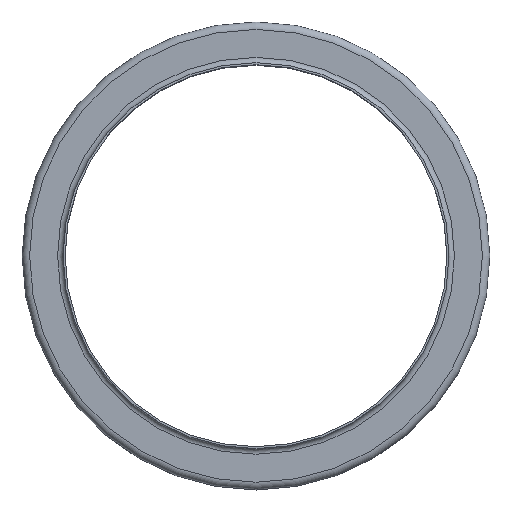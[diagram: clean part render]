
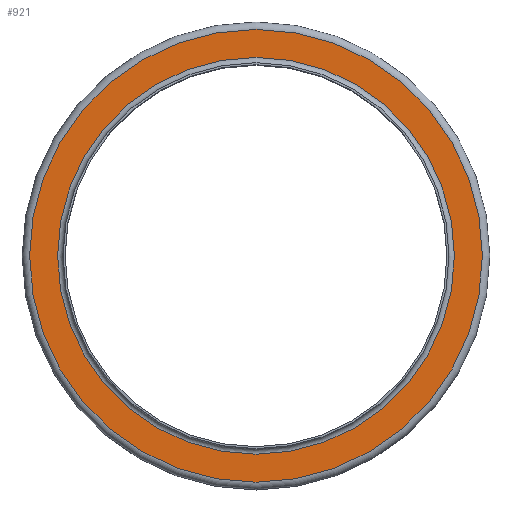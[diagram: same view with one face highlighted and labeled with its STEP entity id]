
A CAD part, top view. The second image highlights one B-rep face of the part: STEP entity #921.
In plain terms, the highlighted planar face has unit normal (0, 0, 1).
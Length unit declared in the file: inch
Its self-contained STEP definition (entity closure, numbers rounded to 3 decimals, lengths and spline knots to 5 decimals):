
#98=FACE_BOUND('',#272,.T.);
#165=FACE_OUTER_BOUND('',#271,.T.);
#271=EDGE_LOOP('',(#772));
#272=EDGE_LOOP('',(#773));
#385=CIRCLE('',#1110,2.89025);
#386=CIRCLE('',#1112,3.29775);
#466=VERTEX_POINT('',#1734);
#467=VERTEX_POINT('',#1738);
#571=EDGE_CURVE('',#466,#466,#385,.T.);
#572=EDGE_CURVE('',#467,#467,#386,.T.);
#772=ORIENTED_EDGE('',*,*,#572,.F.);
#773=ORIENTED_EDGE('',*,*,#571,.T.);
#854=PLANE('',#1111);
#921=ADVANCED_FACE('',(#165,#98),#854,.T.);
#1110=AXIS2_PLACEMENT_3D('',#1736,#1446,#1447);
#1111=AXIS2_PLACEMENT_3D('',#1737,#1448,#1449);
#1112=AXIS2_PLACEMENT_3D('',#1739,#1450,#1451);
#1446=DIRECTION('center_axis',(0.,0.,-1.));
#1447=DIRECTION('ref_axis',(1.,0.,0.));
#1448=DIRECTION('center_axis',(0.,0.,1.));
#1449=DIRECTION('ref_axis',(1.,0.,0.));
#1450=DIRECTION('center_axis',(0.,0.,-1.));
#1451=DIRECTION('ref_axis',(1.,0.,0.));
#1734=CARTESIAN_POINT('',(2.89025,0.,-0.07875));
#1736=CARTESIAN_POINT('Origin',(0.,0.,-0.07875));
#1737=CARTESIAN_POINT('Origin',(0.,3.29775,-0.07875));
#1738=CARTESIAN_POINT('',(3.29775,0.,-0.07875));
#1739=CARTESIAN_POINT('Origin',(0.,0.,-0.07875));
